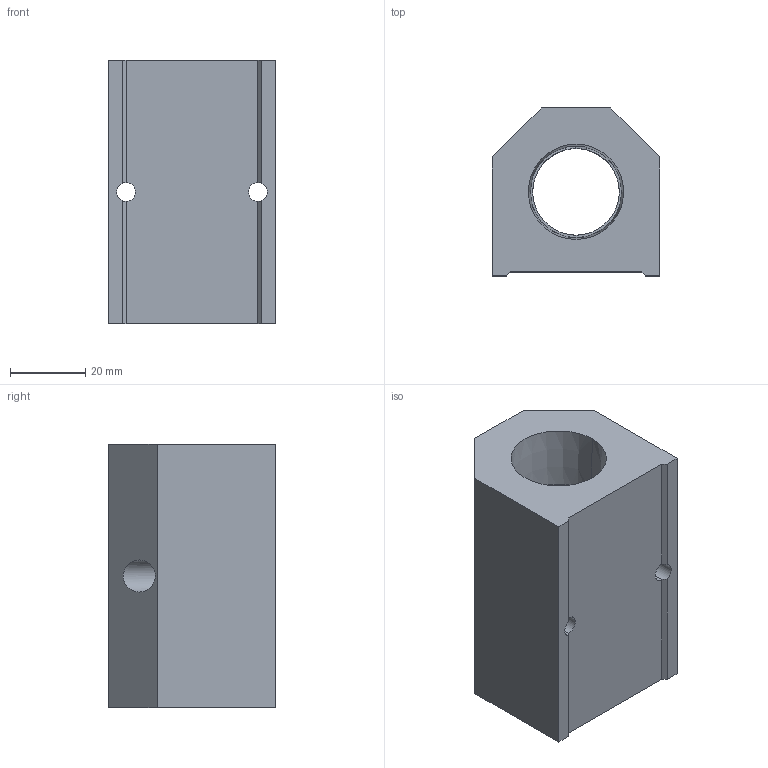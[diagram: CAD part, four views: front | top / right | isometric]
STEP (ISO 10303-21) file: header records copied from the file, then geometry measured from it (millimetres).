
FILE_DESCRIPTION (( 'STEP AP214' ), '1' );
FILE_NAME ('ALM2C-N4N12-70B.step', '2022-02-06T14:10:22', ( '' ), ( '' ), 'SwSTEP 2.0', 'SolidWorks 2020', '' );
FILE_SCHEMA (( 'AUTOMOTIVE_DESIGN' ));
Length unit declared in the file: millimetre
Products named in the file (1): ALM2C-N4N12-70B
Bounding box: 44.5 x 44.5 x 70 mm (x, y, z)
Volume: 88386.5 mm3; surface area: 20837.4 mm2
Topology: 1 solids, 1 shells, 256 faces, 678 edges, 448 vertices
Faces by surface type: plane 180, bspline 46, cylinder 16, cone 14
Entity records: 11368 total; most frequent: CARTESIAN_POINT 5205, ORIENTED_EDGE 1356, DIRECTION 1024, EDGE_CURVE 678, LINE 514, VECTOR 514, VERTEX_POINT 448, EDGE_LOOP 290
